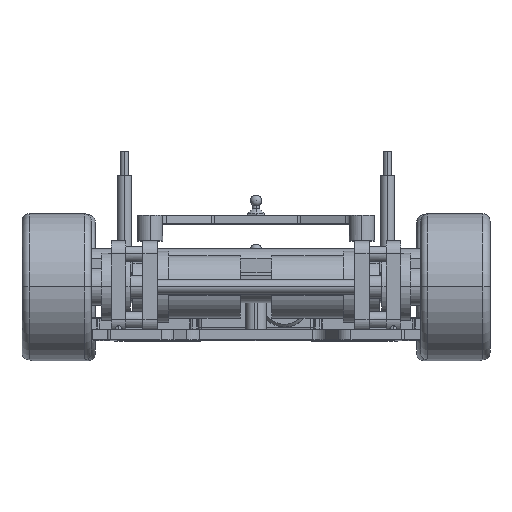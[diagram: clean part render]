
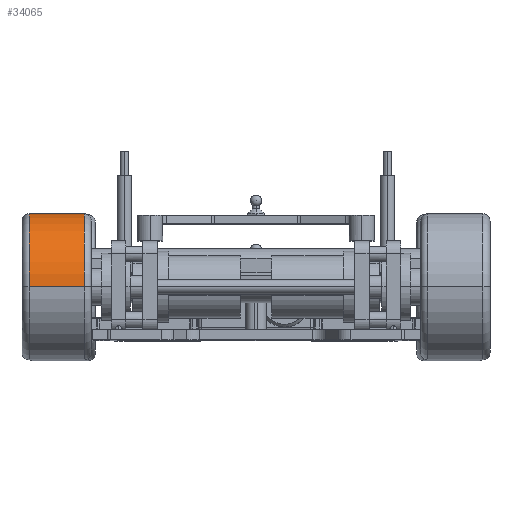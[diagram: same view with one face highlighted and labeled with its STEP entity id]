
A CAD part, top view. The second image highlights one B-rep face of the part: STEP entity #34065.
In plain terms, the highlighted cylindrical face has radius 25.5 mm (diameter 51 mm), a partial arc.
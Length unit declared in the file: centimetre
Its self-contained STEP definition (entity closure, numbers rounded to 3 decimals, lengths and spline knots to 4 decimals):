
#25 = CARTESIAN_POINT ( 'NONE',  ( -0.9625, 0., -2.55 ) ) ;
#1040 = CARTESIAN_POINT ( 'NONE',  ( 0., 0., 2.55 ) ) ;
#1967 = CARTESIAN_POINT ( 'NONE',  ( -0.9625, 0., 2.55 ) ) ;
#2248 = VECTOR ( 'NONE', #30253, 100. ) ;
#2959 = VERTEX_POINT ( 'NONE', #1967 ) ;
#5054 = DIRECTION ( 'NONE',  ( -1., 0., 0. ) ) ;
#5949 = VECTOR ( 'NONE', #5054, 100. ) ;
#8238 = CARTESIAN_POINT ( 'NONE',  ( 0.9625, 0., 0. ) ) ;
#8328 = ORIENTED_EDGE ( 'NONE', *, *, #31170, .F. ) ;
#11167 = DIRECTION ( 'NONE',  ( -1., 0., 0. ) ) ;
#11180 = DIRECTION ( 'NONE',  ( -1., 0., 0. ) ) ;
#12110 = AXIS2_PLACEMENT_3D ( 'NONE', #28524, #18734, #12647 ) ;
#12634 = FACE_OUTER_BOUND ( 'NONE', #21554, .T. ) ;
#12647 = DIRECTION ( 'NONE',  ( 0., 0., -1. ) ) ;
#13677 = CIRCLE ( 'NONE', #12110, 2.55 ) ;
#14491 = LINE ( 'NONE', #30877, #5949 ) ;
#17406 = CARTESIAN_POINT ( 'NONE',  ( 0.9625, 0., -2.55 ) ) ;
#18190 = ORIENTED_EDGE ( 'NONE', *, *, #24647, .T. ) ;
#18734 = DIRECTION ( 'NONE',  ( 1., 0., 0. ) ) ;
#19023 = EDGE_CURVE ( 'NONE', #23151, #33989, #39392, .T. ) ;
#19622 = CARTESIAN_POINT ( 'NONE',  ( 0.9625, 0., 2.55 ) ) ;
#19781 = EDGE_CURVE ( 'NONE', #39427, #2959, #13677, .T. ) ;
#21554 = EDGE_LOOP ( 'NONE', ( #29513, #18190, #39112, #8328 ) ) ;
#23151 = VERTEX_POINT ( 'NONE', #19622 ) ;
#23415 = LINE ( 'NONE', #1040, #2248 ) ;
#24647 = EDGE_CURVE ( 'NONE', #33989, #39427, #14491, .T. ) ;
#25002 = AXIS2_PLACEMENT_3D ( 'NONE', #8238, #11167, #27754 ) ;
#27754 = DIRECTION ( 'NONE',  ( 0., 0., 1. ) ) ;
#28158 = AXIS2_PLACEMENT_3D ( 'NONE', #30433, #11180, #40123 ) ;
#28524 = CARTESIAN_POINT ( 'NONE',  ( -0.9625, 0., 0. ) ) ;
#29513 = ORIENTED_EDGE ( 'NONE', *, *, #19023, .T. ) ;
#30253 = DIRECTION ( 'NONE',  ( -1., 0., 0. ) ) ;
#30433 = CARTESIAN_POINT ( 'NONE',  ( 0., 0., 0. ) ) ;
#30877 = CARTESIAN_POINT ( 'NONE',  ( 0., 0., -2.55 ) ) ;
#31170 = EDGE_CURVE ( 'NONE', #23151, #2959, #23415, .T. ) ;
#33989 = VERTEX_POINT ( 'NONE', #17406 ) ;
#34065 = ADVANCED_FACE ( 'NONE', ( #12634 ), #35257, .T. ) ;
#35257 = CYLINDRICAL_SURFACE ( 'NONE', #28158, 2.55 ) ;
#39112 = ORIENTED_EDGE ( 'NONE', *, *, #19781, .T. ) ;
#39392 = CIRCLE ( 'NONE', #25002, 2.55 ) ;
#39427 = VERTEX_POINT ( 'NONE', #25 ) ;
#40123 = DIRECTION ( 'NONE',  ( 0., 0., 1. ) ) ;
